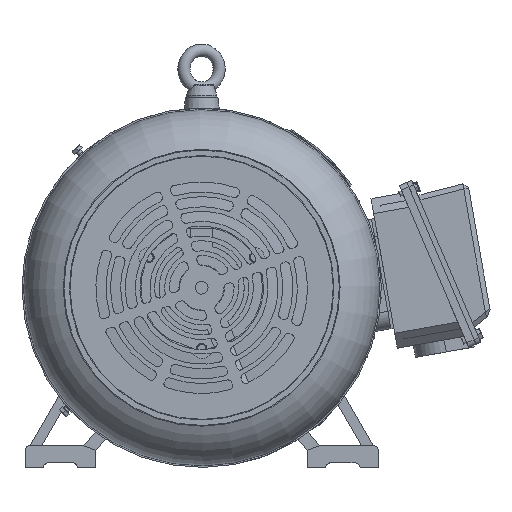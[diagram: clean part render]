
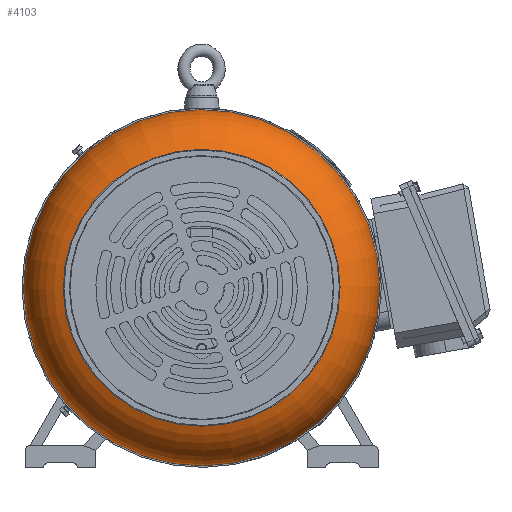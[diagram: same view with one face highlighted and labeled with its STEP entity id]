
A CAD part, front view. The second image highlights one B-rep face of the part: STEP entity #4103.
In plain terms, the highlighted toroidal (fillet/blend) face has major radius 116 mm and minor radius 60 mm.
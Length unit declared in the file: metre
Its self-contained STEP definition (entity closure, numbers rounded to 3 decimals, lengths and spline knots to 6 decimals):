
#4103=ADVANCED_FACE('',(#7953,#7954),#7955,.T.);
#7953=FACE_OUTER_BOUND('',#14620,.T.);
#7954=FACE_OUTER_BOUND('',#14621,.T.);
#7955=TOROIDAL_SURFACE('',#14622,0.116,0.06);
#14620=EDGE_LOOP('',(#27630));
#14621=EDGE_LOOP('',(#27631));
#14622=AXIS2_PLACEMENT_3D('',#27632,#27633,#27634);
#27630=ORIENTED_EDGE('',*,*,#34176,.T.);
#27631=ORIENTED_EDGE('',*,*,#34475,.F.);
#27632=CARTESIAN_POINT('',(0.,-0.028758,0.));
#27633=DIRECTION('',(0.0,-1.0,0.));
#27634=DIRECTION('',(0.0,0.,-1.0));
#34176=EDGE_CURVE('',#41434,#41434,#41435,.T.);
#34475=EDGE_CURVE('',#42016,#42016,#42017,.T.);
#41434=VERTEX_POINT('',#62240);
#41435=CIRCLE('',#62241,0.136735);
#42016=VERTEX_POINT('',#63346);
#42017=CIRCLE('',#63347,0.176);
#62240=CARTESIAN_POINT('',(0.136735,0.027545,0.));
#62241=AXIS2_PLACEMENT_3D('',#70354,#70355,#70356);
#63346=CARTESIAN_POINT('',(0.0,-0.028758,-0.176));
#63347=AXIS2_PLACEMENT_3D('',#71061,#71062,#71063);
#70354=CARTESIAN_POINT('',(0.,0.027545,0.));
#70355=DIRECTION('',(0.,-1.0,0.));
#70356=DIRECTION('',(1.0,0.,0.0));
#71061=CARTESIAN_POINT('',(0.0,-0.028758,0.));
#71062=DIRECTION('',(0.0,-1.0,0.));
#71063=DIRECTION('',(0.0,0.,-1.0));
